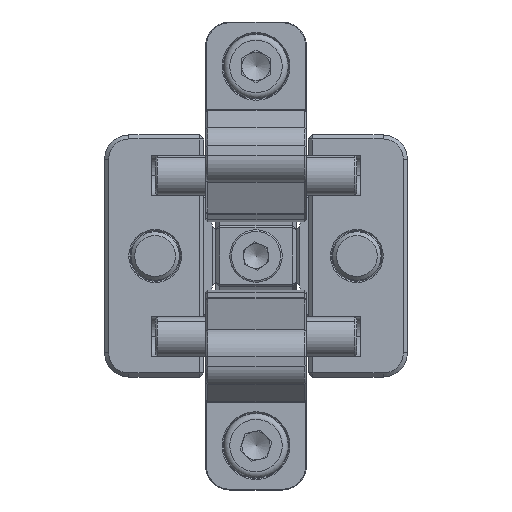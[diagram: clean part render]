
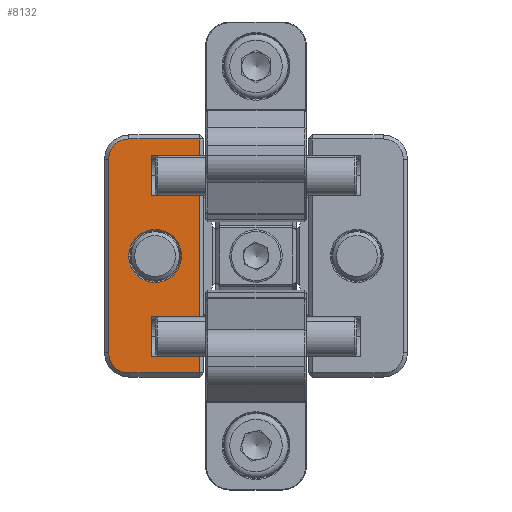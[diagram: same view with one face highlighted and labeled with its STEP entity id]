
A CAD part, left-side view. The second image highlights one B-rep face of the part: STEP entity #8132.
In plain terms, the highlighted planar face has unit normal (-1, 0, 0) as drawn and (0, 1, 0) by its records, which use the part's own axes.
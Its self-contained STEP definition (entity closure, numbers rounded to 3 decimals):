
#117 = CARTESIAN_POINT ( 'NONE',  ( 29., 0., -1. ) ) ;
#288 = LINE ( 'NONE', #10444, #759 ) ;
#467 = LINE ( 'NONE', #10532, #4400 ) ;
#502 = CARTESIAN_POINT ( 'NONE',  ( 15., 0., -13. ) ) ;
#563 = CARTESIAN_POINT ( 'NONE',  ( 29., 0., 0. ) ) ;
#575 = DIRECTION ( 'NONE',  ( 0., 0., 1. ) ) ;
#623 = FACE_BOUND ( 'NONE', #8986, .T. ) ;
#751 = VECTOR ( 'NONE', #5982, 1000. ) ;
#759 = VECTOR ( 'NONE', #9017, 1000. ) ;
#777 = DIRECTION ( 'NONE',  ( -1., 0., 0. ) ) ;
#973 = EDGE_CURVE ( 'NONE', #1618, #6593, #6769, .T. ) ;
#1108 = VERTEX_POINT ( 'NONE', #1947 ) ;
#1152 = AXIS2_PLACEMENT_3D ( 'NONE', #1696, #5759, #4264 ) ;
#1171 = DIRECTION ( 'NONE',  ( 1., 0., 0. ) ) ;
#1261 = ORIENTED_EDGE ( 'NONE', *, *, #6387, .T. ) ;
#1371 = VERTEX_POINT ( 'NONE', #8036 ) ;
#1401 = LINE ( 'NONE', #6347, #8606 ) ;
#1493 = CARTESIAN_POINT ( 'NONE',  ( -24., 0., -18.5 ) ) ;
#1547 = ORIENTED_EDGE ( 'NONE', *, *, #973, .F. ) ;
#1618 = VERTEX_POINT ( 'NONE', #117 ) ;
#1696 = CARTESIAN_POINT ( 'NONE',  ( 24., 0., -18.5 ) ) ;
#1780 = AXIS2_PLACEMENT_3D ( 'NONE', #1493, #4831, #8203 ) ;
#1870 = ORIENTED_EDGE ( 'NONE', *, *, #5201, .F. ) ;
#1878 = ORIENTED_EDGE ( 'NONE', *, *, #3356, .T. ) ;
#1947 = CARTESIAN_POINT ( 'NONE',  ( -29., 0., -1. ) ) ;
#1976 = EDGE_CURVE ( 'NONE', #2786, #2815, #288, .T. ) ;
#2142 = DIRECTION ( 'NONE',  ( 0., -1., 0. ) ) ;
#2352 = DIRECTION ( 'NONE',  ( 0., 0., 1. ) ) ;
#2381 = CARTESIAN_POINT ( 'NONE',  ( 0., 0., -1. ) ) ;
#2438 = ORIENTED_EDGE ( 'NONE', *, *, #2556, .T. ) ;
#2556 = EDGE_CURVE ( 'NONE', #6873, #6873, #9466, .T. ) ;
#2561 = VERTEX_POINT ( 'NONE', #9060 ) ;
#2786 = VERTEX_POINT ( 'NONE', #3702 ) ;
#2815 = VERTEX_POINT ( 'NONE', #5162 ) ;
#2937 = ORIENTED_EDGE ( 'NONE', *, *, #8554, .F. ) ;
#2992 = EDGE_CURVE ( 'NONE', #9631, #8047, #4582, .T. ) ;
#3206 = LINE ( 'NONE', #7445, #6040 ) ;
#3215 = CARTESIAN_POINT ( 'NONE',  ( -25., 0., -13. ) ) ;
#3356 = EDGE_CURVE ( 'NONE', #1108, #6198, #4369, .T. ) ;
#3416 = ORIENTED_EDGE ( 'NONE', *, *, #3593, .T. ) ;
#3546 = VECTOR ( 'NONE', #5636, 1000. ) ;
#3592 = CARTESIAN_POINT ( 'NONE',  ( 0., 0., -1. ) ) ;
#3593 = EDGE_CURVE ( 'NONE', #2561, #9631, #8048, .T. ) ;
#3684 = VERTEX_POINT ( 'NONE', #9862 ) ;
#3702 = CARTESIAN_POINT ( 'NONE',  ( 24., 0., -23.5 ) ) ;
#3752 = DIRECTION ( 'NONE',  ( 0., 0., 1. ) ) ;
#3768 = CARTESIAN_POINT ( 'NONE',  ( 0., 0., -12. ) ) ;
#3836 = VECTOR ( 'NONE', #3752, 1000. ) ;
#3848 = DIRECTION ( 'NONE',  ( 0., 0., -1. ) ) ;
#3865 = DIRECTION ( 'NONE',  ( 0., 0., -1. ) ) ;
#3892 = EDGE_CURVE ( 'NONE', #6771, #1108, #1401, .T. ) ;
#3908 = DIRECTION ( 'NONE',  ( -1., 0., 0. ) ) ;
#3951 = EDGE_CURVE ( 'NONE', #10328, #1618, #8110, .T. ) ;
#4264 = DIRECTION ( 'NONE',  ( 0., 0., 1. ) ) ;
#4314 = VECTOR ( 'NONE', #9902, 1000. ) ;
#4369 = LINE ( 'NONE', #3592, #9622 ) ;
#4400 = VECTOR ( 'NONE', #3865, 1000. ) ;
#4582 = LINE ( 'NONE', #8882, #3546 ) ;
#4591 = CARTESIAN_POINT ( 'NONE',  ( 25., 0., -13. ) ) ;
#4656 = ORIENTED_EDGE ( 'NONE', *, *, #10247, .F. ) ;
#4685 = AXIS2_PLACEMENT_3D ( 'NONE', #3768, #2142, #2352 ) ;
#4762 = LINE ( 'NONE', #6530, #4314 ) ;
#4831 = DIRECTION ( 'NONE',  ( 0., 1., 0. ) ) ;
#4865 = VECTOR ( 'NONE', #777, 1000. ) ;
#4880 = EDGE_CURVE ( 'NONE', #8989, #2561, #4762, .T. ) ;
#4928 = ORIENTED_EDGE ( 'NONE', *, *, #3892, .T. ) ;
#4930 = CARTESIAN_POINT ( 'NONE',  ( 15., 0., -13. ) ) ;
#5162 = CARTESIAN_POINT ( 'NONE',  ( -24., 0., -23.5 ) ) ;
#5201 = EDGE_CURVE ( 'NONE', #2786, #10328, #5903, .T. ) ;
#5545 = FACE_OUTER_BOUND ( 'NONE', #7056, .T. ) ;
#5636 = DIRECTION ( 'NONE',  ( 1., 0., 0. ) ) ;
#5690 = DIRECTION ( 'NONE',  ( 0., 0., 1. ) ) ;
#5759 = DIRECTION ( 'NONE',  ( 0., -1., 0. ) ) ;
#5903 = CIRCLE ( 'NONE', #1152, 5. ) ;
#5907 = ORIENTED_EDGE ( 'NONE', *, *, #1976, .T. ) ;
#5925 = CARTESIAN_POINT ( 'NONE',  ( 29., 0., -18.5 ) ) ;
#5982 = DIRECTION ( 'NONE',  ( 0., 0., 1. ) ) ;
#6040 = VECTOR ( 'NONE', #5690, 1000. ) ;
#6198 = VERTEX_POINT ( 'NONE', #7946 ) ;
#6347 = CARTESIAN_POINT ( 'NONE',  ( -29., 0., 0. ) ) ;
#6387 = EDGE_CURVE ( 'NONE', #8047, #6593, #3206, .T. ) ;
#6530 = CARTESIAN_POINT ( 'NONE',  ( 0., 0., -1. ) ) ;
#6593 = VERTEX_POINT ( 'NONE', #8177 ) ;
#6769 = LINE ( 'NONE', #2381, #4865 ) ;
#6771 = VERTEX_POINT ( 'NONE', #7060 ) ;
#6873 = VERTEX_POINT ( 'NONE', #9257 ) ;
#7056 = EDGE_LOOP ( 'NONE', ( #8184, #8130, #3416, #7303, #1261, #1547, #10255, #1870, #5907, #8929, #4928, #1878, #4656, #2937 ) ) ;
#7060 = CARTESIAN_POINT ( 'NONE',  ( -29., 0., -18.5 ) ) ;
#7162 = CARTESIAN_POINT ( 'NONE',  ( -25., 0., -13. ) ) ;
#7282 = DIRECTION ( 'NONE',  ( 0., 1., 0. ) ) ;
#7303 = ORIENTED_EDGE ( 'NONE', *, *, #2992, .T. ) ;
#7445 = CARTESIAN_POINT ( 'NONE',  ( 25., 0., -13. ) ) ;
#7577 = AXIS2_PLACEMENT_3D ( 'NONE', #8230, #7282, #575 ) ;
#7622 = EDGE_CURVE ( 'NONE', #2815, #6771, #10541, .T. ) ;
#7946 = CARTESIAN_POINT ( 'NONE',  ( -25., 0., -1. ) ) ;
#8036 = CARTESIAN_POINT ( 'NONE',  ( -15., 0., -13. ) ) ;
#8047 = VERTEX_POINT ( 'NONE', #4591 ) ;
#8048 = LINE ( 'NONE', #502, #10687 ) ;
#8110 = LINE ( 'NONE', #563, #3836 ) ;
#8121 = PLANE ( 'NONE',  #7577 ) ;
#8130 = ORIENTED_EDGE ( 'NONE', *, *, #4880, .T. ) ;
#8132 = ADVANCED_FACE ( 'NONE', ( #623, #5545 ), #8121, .T. ) ;
#8177 = CARTESIAN_POINT ( 'NONE',  ( 25., 0., -1. ) ) ;
#8184 = ORIENTED_EDGE ( 'NONE', *, *, #9952, .F. ) ;
#8203 = DIRECTION ( 'NONE',  ( 0., 0., 1. ) ) ;
#8230 = CARTESIAN_POINT ( 'NONE',  ( 0., 0., 0. ) ) ;
#8554 = EDGE_CURVE ( 'NONE', #1371, #3684, #9758, .T. ) ;
#8606 = VECTOR ( 'NONE', #8775, 1000. ) ;
#8775 = DIRECTION ( 'NONE',  ( 0., 0., 1. ) ) ;
#8882 = CARTESIAN_POINT ( 'NONE',  ( 25., 0., -13. ) ) ;
#8929 = ORIENTED_EDGE ( 'NONE', *, *, #7622, .T. ) ;
#8986 = EDGE_LOOP ( 'NONE', ( #2438 ) ) ;
#8989 = VERTEX_POINT ( 'NONE', #9070 ) ;
#9017 = DIRECTION ( 'NONE',  ( -1., 0., 0. ) ) ;
#9060 = CARTESIAN_POINT ( 'NONE',  ( 15., 0., -1. ) ) ;
#9070 = CARTESIAN_POINT ( 'NONE',  ( -15., 0., -1. ) ) ;
#9257 = CARTESIAN_POINT ( 'NONE',  ( 0., 0., -5.45 ) ) ;
#9466 = CIRCLE ( 'NONE', #4685, 6.55 ) ;
#9622 = VECTOR ( 'NONE', #1171, 1000. ) ;
#9631 = VERTEX_POINT ( 'NONE', #4930 ) ;
#9659 = VECTOR ( 'NONE', #3908, 1000. ) ;
#9758 = LINE ( 'NONE', #7162, #9659 ) ;
#9862 = CARTESIAN_POINT ( 'NONE',  ( -25., 0., -13. ) ) ;
#9902 = DIRECTION ( 'NONE',  ( 1., 0., 0. ) ) ;
#9952 = EDGE_CURVE ( 'NONE', #8989, #1371, #467, .T. ) ;
#9991 = LINE ( 'NONE', #3215, #751 ) ;
#10247 = EDGE_CURVE ( 'NONE', #3684, #6198, #9991, .T. ) ;
#10255 = ORIENTED_EDGE ( 'NONE', *, *, #3951, .F. ) ;
#10328 = VERTEX_POINT ( 'NONE', #5925 ) ;
#10444 = CARTESIAN_POINT ( 'NONE',  ( 0., 0., -23.5 ) ) ;
#10532 = CARTESIAN_POINT ( 'NONE',  ( -15., 0., -13. ) ) ;
#10541 = CIRCLE ( 'NONE', #1780, 5. ) ;
#10687 = VECTOR ( 'NONE', #3848, 1000. ) ;
